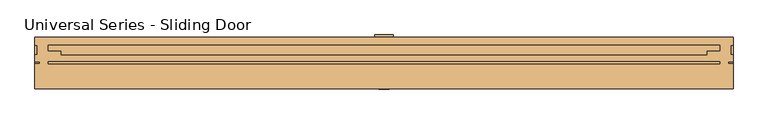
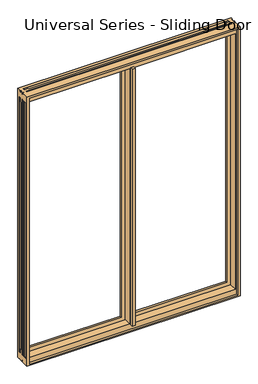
"""IFC4 building model written with IfcOpenShell, lengths in millimetres: door geometry, Universal Series - Sliding Door : Universal Sliding Door - Rainware White."""

from ifc_helpers import new_model, si_unit, frame, origin, place, context, project, spatial, polyline, circle_curve, ellipse_curve, source, transform, mapped, element, save
from ifc_brep_helpers import plane_surface, revolved_surface, advanced_brep


def universal_series_sliding_door_d04591d3(model_context):
    return source(origin(), model_context, "Body", "AdvancedBrep", [
        advanced_brep(
        [(-762.0, 18.25625, 0.0), (-762.0, 2.38125, 0.0), (-762.0, 2.38125, 9.836392), (-762.0, -2.38125, 9.836392), (-762.0, -2.38125, 0.0), (-762.0, -56.35625, 0.0), (-762.0, -56.35625, 2032.0), (-762.0, -2.38125, 2032.0), (-762.0, -2.38125, 2022.163608), (-762.0, 2.38125, 2022.163608), (-762.0, 2.38125, 2032.0), (-762.0, 18.25625, 2032.0), (-762.0, 18.25625, 2027.2375), (-762.0, 38.89375, 2027.2375), (-762.0, 38.89375, 2032.0), (-762.0, 56.35625, 2032.0), (-762.0, 56.35625, 0.0), (-762.0, 38.89375, 0.0), (-762.0, 38.89375, 4.7625), (-762.0, 18.25625, 4.7625), (-762.0, -38.89375, 52.3875), (-762.0, -18.25625, 52.3875), (-762.0, -18.25625, 1979.6125), (-762.0, -38.89375, 1979.6125), (-762.0, -2.38125, 52.3875), (-762.0, 2.38125, 52.3875), (-762.0, 2.38125, 1979.6125), (-762.0, -2.38125, 1979.6125), (-762.0, 26.19375, 80.9625), (-762.0, 26.19375, 52.3875), (-762.0, 38.89375, 52.3875), (-762.0, 38.89375, 1979.6125), (-762.0, 26.19375, 1979.6125), (-762.0, 26.19375, 1951.0375), (-762.0, 18.25625, 1951.0375), (-762.0, 18.25625, 80.9625), (-20.6375, 56.35625, 52.3875), (-20.6375, 56.35625, 0.0), (762.0, 56.35625, 2032.0), (762.0, 56.35625, 0.0), (20.6375, 56.35625, 0.0), (20.6375, 56.35625, 52.3875), (733.425, 56.35625, 52.3875), (733.425, 56.35625, 1979.6125), (20.6375, 56.35625, 1979.6125), (-20.6375, 56.35625, 1979.6125), (-733.425, 56.35625, 1979.6125), (-733.425, 56.35625, 52.3875), (-757.2375, 18.25625, 0.0), (-757.2375, 38.89375, 0.0), (-20.6375, 61.11875, 0.0), (20.6375, 61.11875, 0.0), (762.0, 38.89375, 0.0), (757.2375, 38.89375, 0.0), (757.2375, 18.25625, 0.0), (762.0, 18.25625, 0.0), (762.0, 2.38125, 0.0), (752.163608, 2.38125, 0.0), (752.163608, -2.38125, 0.0), (762.0, -2.38125, 0.0), (762.0, -56.35625, 0.0), (-752.163608, -2.38125, 0.0), (-752.163608, 2.38125, 0.0), (20.6375, 26.19375, 0.0), (49.2125, 26.19375, 0.0), (49.2125, 18.25625, 0.0), (704.85, 18.25625, 0.0), (704.85, 26.19375, 0.0), (733.425, 26.19375, 0.0), (733.425, 38.89375, 0.0), (20.6375, 38.89375, 0.0), (20.6375, 2.38125, 0.0), (20.6375, -2.38125, 0.0), (733.425, -2.38125, 0.0), (733.425, 2.38125, 0.0), (-20.6375, -2.38125, 0.0), (-20.6375, 2.38125, 0.0), (-733.425, 2.38125, 0.0), (-733.425, -2.38125, 0.0), (-49.2125, 26.19375, 0.0), (-20.6375, 26.19375, 0.0), (-20.6375, 38.89375, 0.0), (-733.425, 38.89375, 0.0), (-733.425, 26.19375, 0.0), (-704.85, 26.19375, 0.0), (-704.85, 18.25625, 0.0), (-49.2125, 18.25625, 0.0), (-760.809375, 38.89375, 52.3875), (-760.809375, 38.89375, 1979.6125), (-20.6375, 38.89375, 1.190625), (-733.425, 38.89375, 1.190625), (20.6375, 38.89375, 1.190625), (733.425, 38.89375, 1.190625), (760.809375, 38.89375, 1.190625), (757.2375, 38.89375, 1.190625), (762.0, 38.89375, 4.7625), (760.809375, 38.89375, 4.7625), (760.809375, 38.89375, 52.3875), (762.0, 38.89375, 52.3875), (762.0, 38.89375, 1979.6125), (760.809375, 38.89375, 1979.6125), (-757.2375, 38.89375, 1.190625), (-760.809375, 38.89375, 1.190625), (-760.809375, 38.89375, 4.7625), (733.425, 38.89375, 2030.809375), (733.425, 38.89375, 2032.0), (-733.425, 38.89375, 2032.0), (-733.425, 38.89375, 2030.809375), (760.809375, 38.89375, 2030.809375), (760.809375, 38.89375, 2027.2375), (762.0, 38.89375, 2027.2375), (762.0, 38.89375, 2032.0), (757.2375, 38.89375, 2032.0), (757.2375, 38.89375, 2030.809375), (-760.809375, 38.89375, 2030.809375), (-757.2375, 38.89375, 2030.809375), (-757.2375, 38.89375, 2032.0), (-760.809375, 38.89375, 2027.2375), (-759.221875, 42.06875, 4.7625), (-757.2375, 42.06875, 4.7625), (-757.2375, 15.08125, 4.7625), (-759.221875, 15.08125, 4.7625), (-760.809375, 18.25625, 4.7625), (-49.2125, 26.19375, 4.7625), (-49.2125, 15.08125, 4.7625), (-704.85, 15.08125, 4.7625), (-704.85, 26.19375, 4.7625), (-733.425, 26.19375, 4.7625), (-733.425, 42.06875, 4.7625), (-20.6375, 42.06875, 4.7625), (-20.6375, 26.19375, 4.7625), (49.2125, 15.08125, 4.7625), (49.2125, 26.19375, 4.7625), (20.6375, 26.19375, 4.7625), (20.6375, 42.06875, 4.7625), (733.425, 42.06875, 4.7625), (733.425, 26.19375, 4.7625), (704.85, 26.19375, 4.7625), (704.85, 15.08125, 4.7625), (762.0, 18.25625, 4.7625), (760.809375, 18.25625, 4.7625), (759.221875, 15.08125, 4.7625), (757.2375, 15.08125, 4.7625), (757.2375, 42.06875, 4.7625), (759.221875, 42.06875, 4.7625), (-760.809375, 18.25625, 1951.0375), (-760.809375, 18.25625, 80.9625), (-49.2125, 18.25625, 1.190625), (-704.85, 18.25625, 1.190625), (49.2125, 18.25625, 1.190625), (704.85, 18.25625, 1.190625), (757.2375, 18.25625, 1.190625), (760.809375, 18.25625, 1.190625), (762.0, 18.25625, 80.9625), (760.809375, 18.25625, 80.9625), (760.809375, 18.25625, 1951.0375), (762.0, 18.25625, 1951.0375), (-760.809375, 18.25625, 1.190625), (-757.2375, 18.25625, 1.190625), (760.809375, 18.25625, 2027.2375), (760.809375, 18.25625, 2030.809375), (757.2375, 18.25625, 2030.809375), (757.2375, 18.25625, 2032.0), (762.0, 18.25625, 2032.0), (762.0, 18.25625, 2027.2375), (704.85, 18.25625, 2032.0), (704.85, 18.25625, 2030.809375), (-704.85, 18.25625, 2030.809375), (-704.85, 18.25625, 2032.0), (-757.2375, 18.25625, 2030.809375), (-760.809375, 18.25625, 2030.809375), (-760.809375, 18.25625, 2027.2375), (-757.2375, 18.25625, 2032.0), (-760.4125, 2.38125, 52.3875), (-760.4125, 2.38125, 1979.6125), (-20.6375, 2.38125, 1.5875), (-733.425, 2.38125, 1.5875), (20.6375, 2.38125, 1.5875), (733.425, 2.38125, 1.5875), (760.4125, 2.38125, 1.5875), (752.163608, 2.38125, 1.5875), (762.0, 2.38125, 9.836392), (760.4125, 2.38125, 9.836392), (760.4125, 2.38125, 52.3875), (762.0, 2.38125, 52.3875), (762.0, 2.38125, 1979.6125), (760.4125, 2.38125, 1979.6125), (-752.163608, 2.38125, 1.5875), (-760.4125, 2.38125, 1.5875), (-760.4125, 2.38125, 9.836392), (733.425, 2.38125, 2030.4125), (733.425, 2.38125, 2032.0), (-733.425, 2.38125, 2032.0), (-733.425, 2.38125, 2030.4125), (760.4125, 2.38125, 2030.4125), (760.4125, 2.38125, 2022.163608), (762.0, 2.38125, 2022.163608), (762.0, 2.38125, 2032.0), (752.163608, 2.38125, 2032.0), (752.163608, 2.38125, 2030.4125), (-760.4125, 2.38125, 2030.4125), (-752.163608, 2.38125, 2030.4125), (-752.163608, 2.38125, 2032.0), (-760.4125, 2.38125, 2022.163608), (-756.288054, 4.7625, 5.711946), (-756.288054, -4.7625, 5.711946), (-760.4125, -2.38125, 9.836392), (756.288054, 4.7625, 5.711946), (-20.6375, -2.38125, 1.5875), (-733.425, -2.38125, 1.5875), (20.6375, -2.38125, 1.5875), (733.425, -2.38125, 1.5875), (762.0, -2.38125, 9.836392), (760.4125, -2.38125, 9.836392), (756.288054, -4.7625, 5.711946), (760.4125, -2.38125, 1.5875), (752.163608, -2.38125, 1.5875), (-752.163608, -2.38125, 1.5875), (-760.4125, -2.38125, 1.5875), (-760.4125, -2.38125, 1979.6125), (-760.4125, -2.38125, 52.3875), (762.0, -2.38125, 52.3875), (760.4125, -2.38125, 52.3875), (760.4125, -2.38125, 1979.6125), (762.0, -2.38125, 1979.6125), (733.425, -2.38125, 2032.0), (733.425, -2.38125, 2030.4125), (-733.425, -2.38125, 2030.4125), (-733.425, -2.38125, 2032.0), (760.4125, -2.38125, 2022.163608), (760.4125, -2.38125, 2030.4125), (752.163608, -2.38125, 2030.4125), (752.163608, -2.38125, 2032.0), (762.0, -2.38125, 2032.0), (762.0, -2.38125, 2022.163608), (-752.163608, -2.38125, 2030.4125), (-760.4125, -2.38125, 2030.4125), (-760.4125, -2.38125, 2022.163608), (-752.163608, -2.38125, 2032.0), (762.0, -56.35625, 2032.0), (742.95, -56.35625, 2020.8875), (742.95, -56.35625, 11.1125), (-742.95, -56.35625, 11.1125), (-742.95, -56.35625, 2020.8875), (-759.221875, 15.08125, 80.9625), (-757.2375, 15.08125, 80.9625), (-757.2375, 26.19375, 80.9625), (-49.2125, 13.49375, 80.9625), (-49.2125, 26.19375, 80.9625), (-704.85, 26.19375, 80.9625), (-704.85, 13.49375, 80.9625), (49.2125, 26.19375, 80.9625), (49.2125, 13.49375, 80.9625), (704.85, 13.49375, 80.9625), (704.85, 26.19375, 80.9625), (762.0, 26.19375, 80.9625), (757.2375, 26.19375, 80.9625), (757.2375, 15.08125, 80.9625), (759.221875, 15.08125, 80.9625), (-757.2375, 26.19375, 52.3875), (762.0, 26.19375, 52.3875), (757.2375, 26.19375, 52.3875), (733.425, 26.19375, 52.3875), (20.6375, 26.19375, 52.3875), (20.6375, 26.19375, 1979.6125), (733.425, 26.19375, 1979.6125), (704.85, 26.19375, 1951.0375), (49.2125, 26.19375, 1951.0375), (-20.6375, 26.19375, 1979.6125), (-20.6375, 26.19375, 52.3875), (-733.425, 26.19375, 52.3875), (-733.425, 26.19375, 1979.6125), (-49.2125, 26.19375, 1951.0375), (-704.85, 26.19375, 1951.0375), (-757.2375, 26.19375, 1979.6125), (-757.2375, 26.19375, 1951.0375), (762.0, 26.19375, 1979.6125), (762.0, 26.19375, 1951.0375), (757.2375, 26.19375, 1951.0375), (757.2375, 26.19375, 1979.6125), (704.85, 26.19375, 2032.0), (733.425, 26.19375, 2032.0), (733.425, 26.19375, 2027.2375), (704.85, 26.19375, 2027.2375), (-733.425, 26.19375, 2032.0), (-704.85, 26.19375, 2032.0), (-704.85, 26.19375, 2027.2375), (-733.425, 26.19375, 2027.2375), (-757.2375, 42.06875, 52.3875), (-759.221875, 42.06875, 52.3875), (759.221875, 42.06875, 52.3875), (757.2375, 42.06875, 52.3875), (-760.809375, -18.25625, 52.3875), (-760.809375, -18.25625, 1979.6125), (-760.809375, -38.89375, 1979.6125), (-760.809375, -38.89375, 52.3875), (-759.221875, -42.06875, 52.3875), (-757.2375, -42.06875, 52.3875), (-757.2375, -15.08125, 52.3875), (-759.221875, -15.08125, 52.3875), (-20.6375, -42.06875, 52.3875), (-20.6375, 13.49375, 52.3875), (-733.425, 13.49375, 52.3875), (-733.425, -42.06875, 52.3875), (20.6375, 13.49375, 52.3875), (20.6375, -42.06875, 52.3875), (733.425, -42.06875, 52.3875), (733.425, 13.49375, 52.3875), (762.0, -38.89375, 52.3875), (762.0, -18.25625, 52.3875), (760.809375, -18.25625, 52.3875), (759.221875, -15.08125, 52.3875), (757.2375, -15.08125, 52.3875), (757.2375, -42.06875, 52.3875), (759.221875, -42.06875, 52.3875), (760.809375, -38.89375, 52.3875), (762.0, -38.89375, 1979.6125), (762.0, -18.25625, 1979.6125), (760.809375, -38.89375, 1979.6125), (760.809375, -18.25625, 1979.6125), (-757.2375, 15.08125, 2.778125), (-757.2375, 42.06875, 2.778125), (-757.2375, 15.08125, 1951.0375), (-757.2375, 42.06875, 1979.6125), (-757.2375, 42.06875, 2029.221875), (-757.2375, 42.06875, 2027.2375), (-757.2375, 15.08125, 2027.2375), (-757.2375, 15.08125, 2029.221875), (-20.6375, 42.06875, 2.778125), (-20.6375, 61.11875, 1979.6125), (20.6375, 61.11875, 1979.6125), (20.6375, 42.06875, 2.778125), (757.2375, 42.06875, 2.778125), (757.2375, 15.08125, 2.778125), (757.2375, 42.06875, 1979.6125), (757.2375, 15.08125, 1951.0375), (757.2375, 15.08125, 2029.221875), (757.2375, 15.08125, 2027.2375), (757.2375, 42.06875, 2027.2375), (757.2375, 42.06875, 2029.221875), (756.288054, -4.7625, 2026.288054), (756.288054, 4.7625, 2026.288054), (-756.288054, -4.7625, 2026.288054), (-756.288054, 4.7625, 2026.288054), (49.2125, 15.08125, 2.778125), (49.2125, 13.49375, 1951.0375), (704.85, 15.08125, 2.778125), (704.85, 13.49375, 1951.0375), (704.85, 15.08125, 2027.2375), (704.85, 15.08125, 2029.221875), (733.425, 42.06875, 2.778125), (733.425, 42.06875, 2029.221875), (733.425, 42.06875, 2027.2375), (20.6375, -42.06875, 1979.6125), (20.6375, 13.49375, 1979.6125), (733.425, -42.06875, 1979.6125), (733.425, 13.49375, 1979.6125), (-733.425, -42.06875, 1979.6125), (-733.425, 13.49375, 1979.6125), (-20.6375, -42.06875, 1979.6125), (-20.6375, 13.49375, 1979.6125), (-733.425, 42.06875, 2.778125), (-733.425, 42.06875, 2027.2375), (-733.425, 42.06875, 2029.221875), (-704.85, 15.08125, 2.778125), (-704.85, 13.49375, 1951.0375), (-704.85, 15.08125, 2029.221875), (-704.85, 15.08125, 2027.2375), (-49.2125, 15.08125, 2.778125), (-49.2125, 13.49375, 1951.0375), (759.221875, 42.06875, 2.778125), (759.221875, 42.06875, 1979.6125), (759.221875, 42.06875, 2029.221875), (759.221875, 42.06875, 2027.2375), (-759.221875, 42.06875, 1979.6125), (-759.221875, 42.06875, 2.778125), (-759.221875, 42.06875, 2027.2375), (-759.221875, 42.06875, 2029.221875), (759.221875, 15.08125, 1951.0375), (759.221875, 15.08125, 2029.221875), (759.221875, 15.08125, 2027.2375), (759.221875, 15.08125, 2.778125), (-759.221875, 15.08125, 1951.0375), (-759.221875, 15.08125, 2.778125), (-759.221875, 15.08125, 2029.221875), (-759.221875, 15.08125, 2027.2375), (742.95, -42.06875, 11.1125), (742.95, -42.06875, 2020.8875), (-742.95, -42.06875, 2020.8875), (-742.95, -42.06875, 11.1125), (-11.1125, -42.06875, 1983.85408), (11.1125, -42.06875, 1983.85408), (11.1125, -42.06875, 42.8625), (-11.1125, -42.06875, 42.8625), (759.221875, -15.08125, 1979.6125), (757.2375, -15.08125, 1979.6125), (757.2375, -42.06875, 1979.6125), (759.221875, -42.06875, 1979.6125), (-759.221875, -42.06875, 1979.6125), (-757.2375, -42.06875, 1979.6125), (-757.2375, -15.08125, 1979.6125), (-759.221875, -15.08125, 1979.6125), (11.1125, -57.94375, 1983.85408), (11.1125, -57.94375, 42.8625), (-11.1125, -57.94375, 42.8625), (-11.1125, -57.94375, 1983.85408)],
        [
            (0, 1),
            (1, 2),
            (2, 3, circle_curve(frame((-762.0, 0.0, 5.711946), z_axis=(1.0, 0.0, 0.0), x_axis=(0.0, -1.0, 0.0)), 4.7625)),
            (3, 4),
            (4, 5),
            (5, 6),
            (6, 7),
            (7, 8),
            (8, 9, circle_curve(frame((-762.0, 0.0, 2026.288054), z_axis=(1.0, 0.0, 0.0), x_axis=(0.0, 0.0, 1.0)), 4.7625)),
            (9, 10),
            (10, 11),
            (11, 12),
            (12, 13),
            (13, 14),
            (14, 15),
            (15, 16),
            (16, 17),
            (17, 18),
            (18, 19),
            (19, 0),
            (20, 21),
            (21, 22),
            (22, 23),
            (23, 20),
            (24, 25),
            (25, 26),
            (26, 27),
            (27, 24),
            (28, 29),
            (29, 30),
            (30, 31),
            (31, 32),
            (32, 33),
            (33, 34),
            (34, 35),
            (35, 28),
            (36, 37),
            (37, 16),
            (15, 38),
            (38, 39),
            (39, 40),
            (40, 41),
            (41, 42),
            (42, 43),
            (43, 44),
            (44, 45),
            (45, 46),
            (46, 47),
            (47, 36),
            (0, 48),
            (48, 49),
            (49, 17),
            (37, 50),
            (50, 51),
            (51, 40),
            (39, 52),
            (52, 53),
            (53, 54),
            (54, 55),
            (55, 56),
            (56, 57),
            (57, 58, circle_curve(frame((756.288054, 0.0, 0.0), z_axis=(0.0, 0.0, 1.0), x_axis=(-1.0, 0.0, 0.0)), 4.7625)),
            (58, 59),
            (59, 60),
            (60, 5),
            (4, 61),
            (61, 62, circle_curve(frame((-756.288054, 0.0, 0.0), z_axis=(0.0, 0.0, 1.0), x_axis=(-1.0, 0.0, 0.0)), 4.7625)),
            (62, 1),
            (63, 64),
            (64, 65),
            (65, 66),
            (66, 67),
            (67, 68),
            (68, 69),
            (69, 70),
            (70, 63),
            (71, 72),
            (72, 73),
            (73, 74),
            (74, 71),
            (75, 76),
            (76, 77),
            (77, 78),
            (78, 75),
            (79, 80),
            (80, 81),
            (81, 82),
            (82, 83),
            (83, 84),
            (84, 85),
            (85, 86),
            (86, 79),
            (30, 87),
            (87, 88),
            (88, 31),
            (81, 89),
            (89, 90),
            (90, 82),
            (91, 70),
            (69, 92),
            (92, 91),
            (93, 94),
            (94, 53),
            (52, 95),
            (95, 96),
            (96, 93),
            (97, 98),
            (98, 99),
            (99, 100),
            (100, 97),
            (101, 102),
            (102, 103),
            (103, 18),
            (49, 101),
            (104, 105),
            (105, 106),
            (106, 107),
            (107, 104),
            (108, 109),
            (109, 110),
            (110, 111),
            (111, 112),
            (112, 113),
            (113, 108),
            (114, 115),
            (115, 116),
            (116, 14),
            (13, 117),
            (117, 114),
            (103, 118),
            (118, 119),
            (119, 120),
            (120, 121),
            (121, 122),
            (122, 19),
            (123, 124),
            (124, 125),
            (125, 126),
            (126, 127),
            (127, 128),
            (128, 129),
            (129, 130),
            (130, 123),
            (131, 132),
            (132, 133),
            (133, 134),
            (134, 135),
            (135, 136),
            (136, 137),
            (137, 138),
            (138, 131),
            (95, 139),
            (139, 140),
            (140, 141),
            (141, 142),
            (142, 143),
            (143, 144),
            (144, 96),
            (34, 145),
            (145, 146),
            (146, 35),
            (147, 86),
            (85, 148),
            (148, 147),
            (65, 149),
            (149, 150),
            (150, 66),
            (151, 152),
            (152, 140),
            (139, 55),
            (54, 151),
            (153, 154),
            (154, 155),
            (155, 156),
            (156, 153),
            (157, 158),
            (158, 48),
            (122, 157),
            (159, 160),
            (160, 161),
            (161, 162),
            (162, 163),
            (163, 164),
            (164, 159),
            (165, 166),
            (166, 167),
            (167, 168),
            (168, 165),
            (169, 170),
            (170, 171),
            (171, 12),
            (11, 172),
            (172, 169),
            (25, 173),
            (173, 174),
            (174, 26),
            (76, 175),
            (175, 176),
            (176, 77),
            (177, 71),
            (74, 178),
            (178, 177),
            (179, 180),
            (180, 57),
            (56, 181),
            (181, 182),
            (182, 179),
            (183, 184),
            (184, 185),
            (185, 186),
            (186, 183),
            (187, 188),
            (188, 189),
            (189, 2),
            (62, 187),
            (190, 191),
            (191, 192),
            (192, 193),
            (193, 190),
            (194, 195),
            (195, 196),
            (196, 197),
            (197, 198),
            (198, 199),
            (199, 194),
            (200, 201),
            (201, 202),
            (202, 10),
            (9, 203),
            (203, 200),
            (189, 204, ellipse_curve(frame((-756.288054, 0.0, 5.711946), z_axis=(-0.7071067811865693, 0.0, -0.7071067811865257), x_axis=(0.7071067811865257, 0.0, -0.7071067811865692)), 6.7351921, 4.7625)),
            (204, 205, ellipse_curve(frame((-756.288054, 0.0, 5.711946), z_axis=(0.7071067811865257, 0.0, -0.7071067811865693), x_axis=(0.7071067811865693, 0.0, 0.7071067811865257)), 6.7351921, 4.7625)),
            (205, 206, ellipse_curve(frame((-756.288054, 0.0, 5.711946), z_axis=(-0.7071067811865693, 0.0, -0.7071067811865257), x_axis=(0.7071067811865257, 0.0, -0.7071067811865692)), 6.7351921, 4.7625)),
            (206, 3),
            (179, 207, ellipse_curve(frame((756.288054, 0.0, 5.711946), z_axis=(0.7071067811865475, 0.0, 0.7071067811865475), x_axis=(0.7071067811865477, 0.0, -0.7071067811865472)), 6.7351921, 4.7625)),
            (207, 180, ellipse_curve(frame((756.288054, 0.0, 5.711946), z_axis=(-0.7071067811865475, 0.0, 0.7071067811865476), x_axis=(0.7071067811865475, 0.0, 0.7071067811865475)), 6.7351921, 4.7625)),
            (187, 204, ellipse_curve(frame((-756.288054, 0.0, 5.711946), z_axis=(0.7071067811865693, 0.0, 0.7071067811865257), x_axis=(0.7071067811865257, 0.0, -0.7071067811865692)), 6.7351921, 4.7625)),
            (204, 188, ellipse_curve(frame((-756.288054, 0.0, 5.711946), z_axis=(-0.7071067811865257, 0.0, 0.7071067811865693), x_axis=(0.7071067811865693, 0.0, 0.7071067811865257)), 6.7351921, 4.7625)),
            (175, 208, circle_curve(frame((-20.6375, 0.0, 5.711946), z_axis=(1.0, 0.0, 0.0), x_axis=(0.0, -1.0, 0.0)), 4.7625)),
            (208, 209),
            (209, 176, circle_curve(frame((-733.425, 0.0, 5.711946), z_axis=(-1.0, 0.0, 0.0), x_axis=(0.0, -1.0, 0.0)), 4.7625)),
            (210, 177, circle_curve(frame((20.6375, 0.0, 5.711946), z_axis=(-1.0, 0.0, 0.0), x_axis=(0.0, -1.0, 0.0)), 4.7625)),
            (178, 211, circle_curve(frame((733.425, 0.0, 5.711946), z_axis=(1.0, 0.0, 0.0), x_axis=(0.0, -1.0, 0.0)), 4.7625)),
            (211, 210),
            (181, 212, circle_curve(frame((762.0, 0.0, 5.711946), z_axis=(1.0, 0.0, 0.0), x_axis=(0.0, -1.0, 0.0)), 4.7625)),
            (212, 213),
            (213, 214, ellipse_curve(frame((756.288054, 0.0, 5.711946), z_axis=(0.7071067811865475, 0.0, -0.7071067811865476), x_axis=(0.7071067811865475, 0.0, 0.7071067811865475)), 6.7351921, 4.7625)),
            (214, 207, ellipse_curve(frame((756.288054, 0.0, 5.711946), z_axis=(-0.7071067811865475, 0.0, -0.7071067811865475), x_axis=(0.7071067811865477, 0.0, -0.7071067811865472)), 6.7351921, 4.7625)),
            (207, 182, ellipse_curve(frame((756.288054, 0.0, 5.711946), z_axis=(0.7071067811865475, 0.0, -0.7071067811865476), x_axis=(0.7071067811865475, 0.0, 0.7071067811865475)), 6.7351921, 4.7625)),
            (215, 216),
            (216, 214, ellipse_curve(frame((756.288054, 0.0, 5.711946), z_axis=(-0.7071067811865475, 0.0, 0.7071067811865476), x_axis=(0.7071067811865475, 0.0, 0.7071067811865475)), 6.7351921, 4.7625)),
            (214, 215, ellipse_curve(frame((756.288054, 0.0, 5.711946), z_axis=(0.7071067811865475, 0.0, 0.7071067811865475), x_axis=(0.7071067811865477, 0.0, -0.7071067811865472)), 6.7351921, 4.7625)),
            (217, 218),
            (218, 205, ellipse_curve(frame((-756.288054, 0.0, 5.711946), z_axis=(-0.7071067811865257, 0.0, 0.7071067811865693), x_axis=(0.7071067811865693, 0.0, 0.7071067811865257)), 6.7351921, 4.7625)),
            (205, 217, ellipse_curve(frame((-756.288054, 0.0, 5.711946), z_axis=(0.7071067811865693, 0.0, 0.7071067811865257), x_axis=(0.7071067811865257, 0.0, -0.7071067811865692)), 6.7351921, 4.7625)),
            (27, 219),
            (219, 220),
            (220, 24),
            (215, 213),
            (212, 59),
            (58, 216),
            (217, 61),
            (206, 218),
            (208, 75),
            (78, 209),
            (72, 210),
            (211, 73),
            (221, 222),
            (222, 223),
            (223, 224),
            (224, 221),
            (225, 226),
            (226, 227),
            (227, 228),
            (228, 225),
            (229, 230),
            (230, 231),
            (231, 232),
            (232, 233),
            (233, 234),
            (234, 229),
            (235, 236),
            (236, 237),
            (237, 8),
            (7, 238),
            (238, 235),
            (60, 239),
            (239, 6),
            (240, 241),
            (241, 242),
            (242, 243),
            (243, 240),
            (146, 244),
            (244, 245),
            (245, 246),
            (246, 28),
            (247, 248),
            (248, 249),
            (249, 250),
            (250, 247),
            (251, 252),
            (252, 253),
            (253, 254),
            (254, 251),
            (153, 255),
            (255, 256),
            (256, 257),
            (257, 258),
            (258, 154),
            (246, 259),
            (259, 29),
            (63, 133),
            (132, 64),
            (67, 137),
            (136, 68),
            (83, 127),
            (126, 84),
            (79, 123),
            (130, 80),
            (255, 260),
            (260, 261),
            (261, 256),
            (262, 263),
            (263, 264),
            (264, 265),
            (265, 262),
            (254, 266),
            (266, 267),
            (267, 251),
            (268, 269),
            (269, 270),
            (270, 271),
            (271, 268),
            (248, 272),
            (272, 273),
            (273, 249),
            (32, 274),
            (274, 275),
            (275, 33),
            (276, 277),
            (277, 278),
            (278, 279),
            (279, 276),
            (280, 281),
            (281, 282),
            (282, 283),
            (283, 280),
            (284, 285),
            (285, 286),
            (286, 287),
            (287, 284),
            (259, 288),
            (288, 289),
            (289, 87),
            (41, 263),
            (262, 42),
            (260, 98),
            (97, 290),
            (290, 291),
            (291, 261),
            (269, 36),
            (47, 270),
            (21, 292),
            (292, 293),
            (293, 22),
            (23, 294),
            (294, 295),
            (295, 20),
            (295, 296),
            (296, 297),
            (297, 298),
            (298, 299),
            (299, 292),
            (220, 173, circle_curve(frame((-756.288054, 0.0, 52.3875), z_axis=(0.0, 0.0, 1.0), x_axis=(-1.0, 0.0, 0.0)), 4.7625)),
            (300, 301),
            (301, 302),
            (302, 303),
            (303, 300),
            (304, 305),
            (305, 306),
            (306, 307),
            (307, 304),
            (308, 309),
            (309, 310),
            (310, 311),
            (311, 312),
            (312, 313),
            (313, 314),
            (314, 315),
            (315, 308),
            (221, 184),
            (183, 222, circle_curve(frame((756.288054, 0.0, 52.3875), z_axis=(0.0, 0.0, 1.0), x_axis=(-1.0, 0.0, 0.0)), 4.7625)),
            (38, 111),
            (110, 164),
            (163, 197),
            (196, 234, circle_curve(frame((762.0, 0.0, 2026.288054), z_axis=(-1.0, 0.0, 0.0), x_axis=(0.0, 0.0, 1.0)), 4.7625)),
            (233, 239),
            (156, 277),
            (276, 99),
            (308, 316),
            (316, 317),
            (317, 309),
            (224, 185),
            (315, 318),
            (318, 316),
            (317, 319),
            (319, 310),
            (158, 320),
            (320, 120),
            (119, 321),
            (321, 101),
            (245, 322),
            (322, 275),
            (274, 323),
            (323, 288),
            (172, 116),
            (115, 324),
            (324, 325),
            (325, 326),
            (326, 327),
            (327, 169),
            (129, 328),
            (328, 89),
            (329, 50),
            (268, 45),
            (45, 329),
            (329, 330),
            (330, 51),
            (91, 331),
            (331, 134),
            (330, 44),
            (44, 264),
            (94, 332),
            (332, 143),
            (142, 333),
            (333, 151),
            (291, 334),
            (334, 279),
            (278, 335),
            (335, 257),
            (112, 162),
            (161, 336),
            (336, 337),
            (337, 338),
            (338, 339),
            (339, 113),
            (186, 223, circle_curve(frame((756.288054, 0.0, 1979.6125), z_axis=(0.0, 0.0, 1.0), x_axis=(-1.0, 0.0, 0.0)), 4.7625)),
            (229, 340, ellipse_curve(frame((756.288054, 0.0, 2026.288054), z_axis=(-0.7071067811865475, 0.0, -0.7071067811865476), x_axis=(-0.7071067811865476, 0.0, 0.7071067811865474)), 6.7351921, 4.7625)),
            (340, 230, ellipse_curve(frame((756.288054, 0.0, 2026.288054), z_axis=(-0.7071067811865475, 0.0, 0.7071067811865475), x_axis=(0.7071067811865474, 0.0, 0.7071067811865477)), 6.7351921, 4.7625)),
            (194, 341, ellipse_curve(frame((756.288054, 0.0, 2026.288054), z_axis=(-0.7071067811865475, 0.0, 0.7071067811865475), x_axis=(0.7071067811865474, 0.0, 0.7071067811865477)), 6.7351921, 4.7625)),
            (341, 195, ellipse_curve(frame((756.288054, 0.0, 2026.288054), z_axis=(-0.7071067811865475, 0.0, -0.7071067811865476), x_axis=(-0.7071067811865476, 0.0, 0.7071067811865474)), 6.7351921, 4.7625)),
            (198, 232, circle_curve(frame((756.288054, 0.0, 2032.0), z_axis=(0.0, 0.0, 1.0), x_axis=(-1.0, 0.0, 0.0)), 4.7625)),
            (231, 340, ellipse_curve(frame((756.288054, 0.0, 2026.288054), z_axis=(0.7071067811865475, 0.0, 0.7071067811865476), x_axis=(-0.7071067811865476, 0.0, 0.7071067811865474)), 6.7351921, 4.7625)),
            (340, 341, ellipse_curve(frame((756.288054, 0.0, 2026.288054), z_axis=(0.7071067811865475, 0.0, -0.7071067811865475), x_axis=(0.7071067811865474, 0.0, 0.7071067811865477)), 6.7351921, 4.7625)),
            (341, 199, ellipse_curve(frame((756.288054, 0.0, 2026.288054), z_axis=(0.7071067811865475, 0.0, 0.7071067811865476), x_axis=(-0.7071067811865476, 0.0, 0.7071067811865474)), 6.7351921, 4.7625)),
            (219, 174, circle_curve(frame((-756.288054, 0.0, 1979.6125), z_axis=(0.0, 0.0, 1.0), x_axis=(-1.0, 0.0, 0.0)), 4.7625)),
            (236, 342, ellipse_curve(frame((-756.288054, 0.0, 2026.288054), z_axis=(0.7071067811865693, 0.0, 0.7071067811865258), x_axis=(-0.7071067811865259, 0.0, 0.7071067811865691)), 6.7351921, 4.7625)),
            (342, 237, ellipse_curve(frame((-756.288054, 0.0, 2026.288054), z_axis=(0.7071067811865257, 0.0, -0.7071067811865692), x_axis=(0.7071067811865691, 0.0, 0.7071067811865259)), 6.7351921, 4.7625)),
            (203, 343, ellipse_curve(frame((-756.288054, 0.0, 2026.288054), z_axis=(0.7071067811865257, 0.0, -0.7071067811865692), x_axis=(0.7071067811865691, 0.0, 0.7071067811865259)), 6.7351921, 4.7625)),
            (343, 200, ellipse_curve(frame((-756.288054, 0.0, 2026.288054), z_axis=(0.7071067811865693, 0.0, 0.7071067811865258), x_axis=(-0.7071067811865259, 0.0, 0.7071067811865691)), 6.7351921, 4.7625)),
            (238, 202, circle_curve(frame((-756.288054, 0.0, 2032.0), z_axis=(0.0, 0.0, 1.0), x_axis=(-1.0, 0.0, 0.0)), 4.7625)),
            (201, 343, ellipse_curve(frame((-756.288054, 0.0, 2026.288054), z_axis=(-0.7071067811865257, 0.0, 0.7071067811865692), x_axis=(0.7071067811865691, 0.0, 0.7071067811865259)), 6.7351921, 4.7625)),
            (343, 342, ellipse_curve(frame((-756.288054, 0.0, 2026.288054), z_axis=(-0.7071067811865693, 0.0, -0.7071067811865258), x_axis=(-0.7071067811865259, 0.0, 0.7071067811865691)), 6.7351921, 4.7625)),
            (342, 235, ellipse_curve(frame((-756.288054, 0.0, 2026.288054), z_axis=(-0.7071067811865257, 0.0, 0.7071067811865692), x_axis=(0.7071067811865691, 0.0, 0.7071067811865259)), 6.7351921, 4.7625)),
            (131, 344),
            (344, 149),
            (267, 345),
            (345, 252),
            (150, 346),
            (346, 138),
            (253, 347),
            (347, 266),
            (283, 348),
            (348, 349),
            (349, 166),
            (165, 280),
            (135, 350),
            (350, 92),
            (265, 43),
            (281, 105),
            (104, 351),
            (351, 352),
            (352, 282),
            (353, 305),
            (304, 354),
            (354, 353),
            (306, 355),
            (355, 356),
            (356, 307),
            (225, 191),
            (190, 226, circle_curve(frame((733.425, 0.0, 2026.288054), z_axis=(-1.0, 0.0, 0.0), x_axis=(0.0, 0.0, 1.0)), 4.7625)),
            (357, 303),
            (302, 358),
            (358, 357),
            (192, 228),
            (227, 193, circle_curve(frame((-733.425, 0.0, 2026.288054), z_axis=(1.0, 0.0, 0.0), x_axis=(0.0, 0.0, 1.0)), 4.7625)),
            (300, 359),
            (359, 360),
            (360, 301),
            (46, 271),
            (90, 361),
            (361, 128),
            (106, 284),
            (287, 362),
            (362, 363),
            (363, 107),
            (125, 364),
            (364, 148),
            (365, 250),
            (273, 365),
            (285, 168),
            (167, 366),
            (366, 367),
            (367, 286),
            (147, 368),
            (368, 124),
            (247, 369),
            (369, 272),
            (144, 370),
            (370, 93),
            (100, 371),
            (371, 290),
            (372, 373),
            (373, 109),
            (108, 372),
            (371, 334),
            (338, 373),
            (372, 339),
            (323, 374),
            (374, 289),
            (102, 375),
            (375, 118),
            (374, 88),
            (117, 376),
            (376, 377),
            (377, 114),
            (356, 354),
            (345, 347),
            (360, 358),
            (365, 369),
            (335, 378),
            (378, 258),
            (379, 380),
            (380, 337),
            (336, 379),
            (152, 381),
            (381, 141),
            (378, 155),
            (159, 380),
            (379, 160),
            (145, 382),
            (382, 244),
            (121, 383),
            (383, 157),
            (170, 384),
            (384, 385),
            (385, 171),
            (382, 322),
            (386, 387),
            (387, 388),
            (388, 389),
            (389, 386),
            (353, 355),
            (357, 359),
            (390, 391),
            (391, 392),
            (392, 393),
            (393, 390),
            (319, 394),
            (394, 311),
            (394, 395),
            (395, 312),
            (395, 396),
            (396, 313),
            (396, 397),
            (397, 314),
            (397, 318),
            (398, 296),
            (294, 398),
            (398, 399),
            (399, 297),
            (399, 400),
            (400, 298),
            (400, 401),
            (401, 299),
            (401, 293),
            (386, 241),
            (240, 387),
            (242, 389),
            (388, 243),
            (333, 381),
            (383, 320),
            (344, 346),
            (364, 368),
            (332, 370),
            (375, 321),
            (361, 328),
            (331, 350),
            (327, 384),
            (349, 366),
            (348, 367),
            (326, 385),
            (325, 376),
            (352, 362),
            (351, 363),
            (324, 377),
            (391, 402),
            (402, 403),
            (403, 392),
            (404, 393),
            (403, 404),
            (405, 390),
            (404, 405),
            (402, 405),
        ],
        [
            plane_surface(frame((-762.0, 56.35625, 0.0), z_axis=(-1.0, 0.0, 0.0), x_axis=(0.0, -1.0, 0.0))),
            plane_surface(frame((-762.0, 56.35625, 52.3875), z_axis=(0.0, 1.0, 0.0), x_axis=(1.0, 0.0, 0.0))),
            plane_surface(frame((-762.0, 56.35625, 0.0), z_axis=(0.0, 0.0, -1.0), x_axis=(1.0, 0.0, 0.0))),
            plane_surface(frame((-762.0, 38.89375, 0.0), z_axis=(0.0, -1.0, 0.0), x_axis=(1.0, 0.0, 0.0))),
            plane_surface(frame((-762.0, 42.06875, 4.7625), z_axis=(0.0, 0.0, -1.0), x_axis=(1.0, 0.0, 0.0))),
            plane_surface(frame((-762.0, 18.25625, 1.190625), z_axis=(0.0, 1.0, 0.0), x_axis=(1.0, 0.0, 0.0))),
            plane_surface(frame((-762.0, 2.38125, 0.0), z_axis=(0.0, -1.0, 0.0), x_axis=(1.0, 0.0, 0.0))),
            revolved_surface(polyline([(-751.5255539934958, -4.7625, 5.711946), (-762.0, -4.7625, 5.711946)]), (-762.0, 0.0, 5.711946), (1.0, 0.0, 0.0)),
            revolved_surface(polyline([(761.0505540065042, -4.7625, 5.711946), (751.525553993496, -4.7625, 5.711946)]), (-762.0, 0.0, 5.711946), (1.0, 0.0, 0.0)),
            revolved_surface(polyline([(-751.5255539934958, -4.7625, 5.711946), (-761.0505540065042, -4.7625, 5.711946)]), (-762.0, 0.0, 5.711946), (1.0, 0.0, 0.0)),
            revolved_surface(polyline([(-20.637500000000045, -4.7625, 5.711946), (-733.425, -4.7625, 5.711946)]), (-762.0, 0.0, 5.711946), (1.0, 0.0, 0.0)),
            revolved_surface(polyline([(733.425, -4.7625, 5.711946), (20.637500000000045, -4.7625, 5.711946)]), (-762.0, 0.0, 5.711946), (1.0, 0.0, 0.0)),
            revolved_surface(polyline([(762.0, -4.7625, 5.711946), (751.525553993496, -4.7625, 5.711946)]), (-762.0, 0.0, 5.711946), (1.0, 0.0, 0.0)),
            plane_surface(frame((-762.0, -2.38125, 1.5875), z_axis=(0.0, 1.0, 0.0), x_axis=(1.0, 0.0, 0.0))),
            plane_surface(frame((-762.0, -56.35625, 0.0), z_axis=(0.0, -1.0, 0.0), x_axis=(1.0, 0.0, 0.0))),
            plane_surface(frame((-762.0, 13.49375, 80.9625), z_axis=(0.0, 0.0, 1.0), x_axis=(1.0, 0.0, 0.0))),
            plane_surface(frame((-762.0, 26.19375, 80.9625), z_axis=(0.0, 1.0, 0.0), x_axis=(1.0, 0.0, 0.0))),
            plane_surface(frame((-762.0, 26.19375, 52.3875), z_axis=(0.0, 0.0, 1.0), x_axis=(1.0, 0.0, 0.0))),
            plane_surface(frame((-760.809375, -18.25625, 0.0), z_axis=(0.0, -1.0, 0.0), x_axis=(0.0, 0.0, 1.0))),
            plane_surface(frame((-762.0, -38.89375, 0.0), z_axis=(0.0, 1.0, 0.0), x_axis=(0.0, 0.0, 1.0))),
            plane_surface(frame((-762.0, -42.06875, 52.3875), z_axis=(0.0, 0.0, 1.0), x_axis=(1.0, 0.0, 0.0))),
            plane_surface(frame((762.0, 56.35625, 0.0), z_axis=(1.0, 0.0, 0.0), x_axis=(0.0, -1.0, 0.0))),
            plane_surface(frame((760.809375, -38.89375, 0.0), z_axis=(0.0, 1.0, 0.0), x_axis=(0.0, 0.0, 1.0))),
            plane_surface(frame((762.0, -18.25625, 0.0), z_axis=(0.0, -1.0, 0.0), x_axis=(0.0, 0.0, 1.0))),
            plane_surface(frame((-757.2375, 15.08125, 0.0), z_axis=(-1.0, 0.0, 0.0), x_axis=(0.0, 0.0, 1.0))),
            plane_surface(frame((-20.6375, 61.11875, 1979.6125), z_axis=(-1.0, 0.0, 0.0), x_axis=(0.0, 0.0, -1.0))),
            plane_surface(frame((0.0, 61.11875, 1979.6125), z_axis=(0.0, 1.0, 0.0), x_axis=(0.0, 0.0, -1.0))),
            plane_surface(frame((20.6375, 26.19375, 1979.6125), z_axis=(1.0, 0.0, 0.0), x_axis=(0.0, 0.0, -1.0))),
            plane_surface(frame((757.2375, 42.06875, 0.0), z_axis=(1.0, 0.0, 0.0), x_axis=(0.0, 0.0, 1.0))),
            revolved_surface(polyline([(751.5255539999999, 0.0, 10.474446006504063), (751.5255539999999, 0.0, 0.0)]), (756.288054, 0.0, 0.0), (0.0, 0.0, 1.0)),
            revolved_surface(polyline([(751.5255539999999, 0.0, 10.474446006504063), (751.5255539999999, 0.0, 0.949445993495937)]), (756.288054, 0.0, 0.0), (0.0, 0.0, 1.0)),
            revolved_surface(polyline([(751.5255539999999, 0.0, 1979.6125), (751.5255539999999, 0.0, 52.3875)]), (756.288054, 0.0, 0.0), (0.0, 0.0, 1.0)),
            revolved_surface(polyline([(751.5255539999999, 0.0, 2031.0505540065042), (751.5255539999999, 0.0, 2021.525553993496)]), (756.288054, 0.0, 0.0), (0.0, 0.0, 1.0)),
            revolved_surface(polyline([(751.5255539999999, 0.0, 2032.0), (751.5255539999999, 0.0, 2021.525553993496)]), (756.288054, 0.0, 0.0), (0.0, 0.0, 1.0)),
            revolved_surface(polyline([(-761.050554, 0.0, 10.474446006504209), (-761.050554, 0.0, 0.0)]), (-756.288054, 0.0, 0.0), (0.0, 0.0, 1.0)),
            revolved_surface(polyline([(-761.050554, 0.0, 10.474446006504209), (-761.050554, 0.0, 0.9494459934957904)]), (-756.288054, 0.0, 0.0), (0.0, 0.0, 1.0)),
            revolved_surface(polyline([(-761.050554, 0.0, 1979.6125), (-761.050554, 0.0, 52.3875)]), (-756.288054, 0.0, 0.0), (0.0, 0.0, 1.0)),
            revolved_surface(polyline([(-761.050554, 0.0, 2031.0505540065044), (-761.050554, 0.0, 2021.5255539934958)]), (-756.288054, 0.0, 0.0), (0.0, 0.0, 1.0)),
            revolved_surface(polyline([(-761.050554, 0.0, 2032.0), (-761.050554, 0.0, 2021.5255539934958)]), (-756.288054, 0.0, 0.0), (0.0, 0.0, 1.0)),
            plane_surface(frame((49.2125, 13.49375, 1979.6125), z_axis=(1.0, 0.0, 0.0), x_axis=(0.0, 0.0, -1.0))),
            plane_surface(frame((704.85, 13.49375, 0.0), z_axis=(-1.0, 0.0, 0.0), x_axis=(0.0, 0.0, 1.0))),
            plane_surface(frame((733.425, 26.19375, 0.0), z_axis=(-1.0, 0.0, 0.0), x_axis=(0.0, 0.0, 1.0))),
            plane_surface(frame((20.6375, -42.06875, 1979.6125), z_axis=(1.0, 0.0, 0.0), x_axis=(0.0, 0.0, -1.0))),
            plane_surface(frame((733.425, -42.06875, 0.0), z_axis=(-1.0, 0.0, 0.0), x_axis=(0.0, 0.0, 1.0))),
            plane_surface(frame((-733.425, 13.49375, 0.0), z_axis=(1.0, 0.0, 0.0), x_axis=(0.0, 0.0, 1.0))),
            plane_surface(frame((-20.6375, 13.49375, 1979.6125), z_axis=(-1.0, 0.0, 0.0), x_axis=(0.0, 0.0, -1.0))),
            plane_surface(frame((-733.425, 56.35625, 0.0), z_axis=(1.0, 0.0, 0.0), x_axis=(0.0, 0.0, 1.0))),
            plane_surface(frame((-704.85, 26.19375, 0.0), z_axis=(1.0, 0.0, 0.0), x_axis=(0.0, 0.0, 1.0))),
            plane_surface(frame((-49.2125, 26.19375, 1979.6125), z_axis=(-1.0, 0.0, 0.0), x_axis=(0.0, 0.0, -1.0))),
            plane_surface(frame((760.809375, 38.89375, 0.0), z_axis=(-0.8944271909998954, -0.447213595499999, 0.0), x_axis=(0.0, 0.0, 1.0))),
            plane_surface(frame((759.221875, 42.06875, 0.0), z_axis=(0.0, -1.0, 0.0), x_axis=(0.0, 0.0, 1.0))),
            plane_surface(frame((-757.2375, 42.06875, 0.0), z_axis=(0.0, -1.0, 0.0), x_axis=(0.0, 0.0, 1.0))),
            plane_surface(frame((-759.221875, 42.06875, 0.0), z_axis=(0.8944271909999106, -0.4472135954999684, 0.0), x_axis=(0.0, 0.0, 1.0))),
            plane_surface(frame((-762.0, 13.49375, 52.3875), z_axis=(0.0, -1.0, 0.0), x_axis=(1.0, 0.0, 0.0))),
            plane_surface(frame((757.2375, 15.08125, 0.0), z_axis=(0.0, 1.0, 0.0), x_axis=(0.0, 0.0, 1.0))),
            plane_surface(frame((759.221875, 15.08125, 0.0), z_axis=(-0.8944271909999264, 0.447213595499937, 0.0), x_axis=(0.0, 0.0, 1.0))),
            plane_surface(frame((-760.809375, 18.25625, 0.0), z_axis=(0.8944271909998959, 0.447213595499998, 0.0), x_axis=(0.0, 0.0, 1.0))),
            plane_surface(frame((-759.221875, 15.08125, 0.0), z_axis=(0.0, 1.0, 0.0), x_axis=(0.0, 0.0, 1.0))),
            plane_surface(frame((-762.0, -42.06875, 11.1125), z_axis=(0.0, -1.0, 0.0), x_axis=(1.0, 0.0, 0.0))),
            plane_surface(frame((760.809375, -18.25625, 0.0), z_axis=(-0.894427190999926, -0.44721359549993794, 0.0), x_axis=(0.0, 0.0, 1.0))),
            plane_surface(frame((759.221875, -15.08125, 0.0), z_axis=(0.0, -1.0, 0.0), x_axis=(0.0, 0.0, 1.0))),
            plane_surface(frame((757.2375, -15.08125, 0.0), z_axis=(1.0, 0.0, 0.0), x_axis=(0.0, 0.0, 1.0))),
            plane_surface(frame((757.2375, -42.06875, 0.0), z_axis=(0.0, 1.0, 0.0), x_axis=(0.0, 0.0, 1.0))),
            plane_surface(frame((759.221875, -42.06875, 0.0), z_axis=(-0.8944271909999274, 0.4472135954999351, 0.0), x_axis=(0.0, 0.0, 1.0))),
            plane_surface(frame((-760.809375, -38.89375, 0.0), z_axis=(0.8944271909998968, 0.44721359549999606, 0.0), x_axis=(0.0, 0.0, 1.0))),
            plane_surface(frame((-759.221875, -42.06875, 0.0), z_axis=(0.0, 1.0, 0.0), x_axis=(0.0, 0.0, 1.0))),
            plane_surface(frame((-757.2375, -42.06875, 0.0), z_axis=(-1.0, 0.0, 0.0), x_axis=(0.0, 0.0, 1.0))),
            plane_surface(frame((-757.2375, -15.08125, 0.0), z_axis=(0.0, -1.0, 0.0), x_axis=(0.0, 0.0, 1.0))),
            plane_surface(frame((-759.221875, -15.08125, 0.0), z_axis=(0.8944271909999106, -0.4472135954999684, 0.0), x_axis=(0.0, 0.0, 1.0))),
            plane_surface(frame((742.95, -56.35625, 0.0), z_axis=(-1.0, 0.0, 0.0), x_axis=(0.0, 0.0, 1.0))),
            plane_surface(frame((-742.95, -42.06875, 0.0), z_axis=(1.0, 0.0, 0.0), x_axis=(0.0, 0.0, 1.0))),
            plane_surface(frame((-762.0, -56.35625, 11.1125), z_axis=(0.0, 0.0, 1.0), x_axis=(1.0, 0.0, 0.0))),
            plane_surface(frame((-762.0, 15.08125, 2.778125), z_axis=(0.0, 0.44721359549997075, 0.8944271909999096), x_axis=(1.0, 0.0, 0.0))),
            plane_surface(frame((-762.0, 15.08125, 4.7625), z_axis=(0.0, 1.0, 0.0), x_axis=(1.0, 0.0, 0.0))),
            plane_surface(frame((-762.0, 42.06875, 2.778125), z_axis=(0.0, -1.0, 0.0), x_axis=(1.0, 0.0, 0.0))),
            plane_surface(frame((-762.0, 38.89375, 1.190625), z_axis=(0.0, -0.44721359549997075, 0.8944271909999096), x_axis=(1.0, 0.0, 0.0))),
            plane_surface(frame((0.0, 56.35625, 1979.6125), z_axis=(0.0, 0.0, 1.0), x_axis=(0.0, -1.0, 0.0))),
            plane_surface(frame((762.0, 56.35625, 2032.0), z_axis=(0.0, 0.0, 1.0), x_axis=(0.0, -1.0, 0.0))),
            plane_surface(frame((-762.0, 56.35625, 1979.6125), z_axis=(0.0, 0.0, -1.0), x_axis=(1.0, 0.0, 0.0))),
            plane_surface(frame((-762.0, 26.19375, 1951.0375), z_axis=(0.0, 0.0, -1.0), x_axis=(1.0, 0.0, 0.0))),
            plane_surface(frame((-762.0, 13.49375, 1979.6125), z_axis=(0.0, 0.0, -1.0), x_axis=(1.0, 0.0, 0.0))),
            plane_surface(frame((-762.0, -42.06875, 2020.8875), z_axis=(0.0, 0.0, -1.0), x_axis=(1.0, 0.0, 0.0))),
            revolved_surface(polyline([(-751.5255539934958, 0.0, 2031.0505540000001), (-762.0, 0.0, 2031.0505540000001)]), (-762.0, 0.0, 2026.288054), (1.0, 0.0, 0.0)),
            revolved_surface(polyline([(762.0, 0.0, 2031.0505540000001), (751.525553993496, 0.0, 2031.0505540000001)]), (-762.0, 0.0, 2026.288054), (1.0, 0.0, 0.0)),
            revolved_surface(polyline([(761.0505540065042, 0.0, 2031.0505540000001), (751.525553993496, 0.0, 2031.0505540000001)]), (-762.0, 0.0, 2026.288054), (1.0, 0.0, 0.0)),
            revolved_surface(polyline([(-751.5255539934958, 0.0, 2031.0505540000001), (-761.0505540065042, 0.0, 2031.0505540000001)]), (-762.0, 0.0, 2026.288054), (1.0, 0.0, 0.0)),
            revolved_surface(polyline([(733.425, 0.0, 2031.0505540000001), (-733.425, 0.0, 2031.0505540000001)]), (-762.0, 0.0, 2026.288054), (1.0, 0.0, 0.0)),
            plane_surface(frame((-762.0, 18.25625, 2030.809375), z_axis=(0.0, 0.44721359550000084, -0.8944271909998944), x_axis=(1.0, 0.0, 0.0))),
            plane_surface(frame((-762.0, 15.08125, 2029.221875), z_axis=(0.0, 1.0, 0.0), x_axis=(1.0, 0.0, 0.0))),
            plane_surface(frame((-762.0, 15.08125, 2027.2375), z_axis=(0.0, 0.0, 1.0), x_axis=(1.0, 0.0, 0.0))),
            plane_surface(frame((-762.0, 42.06875, 2027.2375), z_axis=(0.0, -1.0, 0.0), x_axis=(1.0, 0.0, 0.0))),
            plane_surface(frame((-762.0, 42.06875, 2029.221875), z_axis=(0.0, -0.4472135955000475, -0.8944271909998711), x_axis=(1.0, 0.0, 0.0))),
            plane_surface(frame((11.1125, -57.94375, 1983.85408), z_axis=(1.0, 0.0, 0.0), x_axis=(0.0, 0.0, -1.0))),
            plane_surface(frame((0.0, 0.0, 42.8625), z_axis=(0.0, 0.0, -1.0), x_axis=(0.0, -1.0, 0.0))),
            plane_surface(frame((-11.1125, -42.06875, 1983.85408), z_axis=(-1.0, 0.0, 0.0), x_axis=(0.0, 0.0, -1.0))),
            plane_surface(frame((-11.1125, -57.94375, 1983.85408), z_axis=(0.0, -1.0, 0.0), x_axis=(0.0, 0.0, -1.0))),
            plane_surface(frame((0.0, 0.0, 1983.85408), z_axis=(0.0, 0.0, 1.0), x_axis=(0.0, -1.0, 0.0))),
        ],
        [
            (0, [[1, 2, 3, 4, 5, 6, 7, 8, 9, 10, 11, 12, 13, 14, 15, 16, 17, 18, 19, 20], [21, 22, 23, 24], [25, 26, 27, 28], [29, 30, 31, 32, 33, 34, 35, 36]]),
            (1, [[37, 38, -16, 39, 40, 41, 42, 43, 44, 45, 46, 47, 48, 49]]),
            (2, [[-1, 50, 51, 52, -17, -38, 53, 54, 55, -41, 56, 57, 58, 59, 60, 61, 62, 63, 64, 65, -5, 66, 67, 68], [69, 70, 71, 72, 73, 74, 75, 76], [77, 78, 79, 80], [81, 82, 83, 84], [85, 86, 87, 88, 89, 90, 91, 92]]),
            (3, [[-31, 93, 94, 95]]),
            (3, [[96, 97, 98, -87]]),
            (3, [[99, -75, 100, 101]]),
            (3, [[102, 103, -57, 104, 105, 106]]),
            (3, [[107, 108, 109, 110]]),
            (3, [[111, 112, 113, -18, -52, 114]]),
            (3, [[115, 116, 117, 118]]),
            (3, [[119, 120, 121, 122, 123, 124]]),
            (3, [[125, 126, 127, -14, 128, 129]]),
            (4, [[-19, -113, 130, 131, 132, 133, 134, 135]]),
            (4, [[136, 137, 138, 139, 140, 141, 142, 143]]),
            (4, [[144, 145, 146, 147, 148, 149, 150, 151]]),
            (4, [[152, 153, 154, 155, 156, 157, 158, -105]]),
            (5, [[-35, 159, 160, 161]]),
            (5, [[162, -91, 163, 164]]),
            (5, [[165, 166, 167, -71]]),
            (5, [[168, 169, -153, 170, -59, 171]]),
            (5, [[172, 173, 174, 175]]),
            (5, [[176, 177, -50, -20, -135, 178]]),
            (5, [[179, 180, 181, 182, 183, 184]]),
            (5, [[185, 186, 187, 188]]),
            (5, [[189, 190, 191, -12, 192, 193]]),
            (6, [[-26, 194, 195, 196]]),
            (6, [[197, 198, 199, -82]]),
            (6, [[200, -80, 201, 202]]),
            (6, [[203, 204, -61, 205, 206, 207]]),
            (6, [[208, 209, 210, 211]]),
            (6, [[212, 213, 214, -2, -68, 215]]),
            (6, [[216, 217, 218, 219]]),
            (6, [[220, 221, 222, 223, 224, 225]]),
            (6, [[226, 227, 228, -10, 229, 230]]),
            (7, [[-3, -214, 231, 232, 233, 234]]),
            (8, [[-203, 235, 236]]),
            (9, [[-212, 237, 238]]),
            (10, [[239, 240, 241, -198]]),
            (11, [[242, -202, 243, 244]]),
            (12, [[245, 246, 247, 248, 249, -206]]),
            (8, [[250, 251, 252]]),
            (9, [[253, 254, 255]]),
            (13, [[-28, 256, 257, 258]]),
            (13, [[-250, 259, -246, 260, -63, 261]]),
            (13, [[-253, 262, -66, -4, -234, 263]]),
            (13, [[264, -84, 265, -240]]),
            (13, [[266, -244, 267, -78]]),
            (13, [[268, 269, 270, 271]]),
            (13, [[272, 273, 274, 275]]),
            (13, [[276, 277, 278, 279, 280, 281]]),
            (13, [[282, 283, 284, -8, 285, 286]]),
            (14, [[287, 288, -6, -65], [289, 290, 291, 292]]),
            (15, [[-36, -161, 293, 294, 295, 296]]),
            (15, [[297, 298, 299, 300]]),
            (15, [[301, 302, 303, 304]]),
            (15, [[305, 306, 307, 308, 309, -172]]),
            (16, [[-29, -296, 310, 311]]),
            (16, [[-69, 312, -145, 313]]),
            (16, [[-73, 314, -149, 315]]),
            (16, [[-89, 316, -139, 317]]),
            (16, [[-85, 318, -143, 319]]),
            (16, [[320, 321, 322, -306]]),
            (16, [[323, 324, 325, 326], [-304, 327, 328, 329]]),
            (16, [[330, 331, 332, 333], [334, 335, 336, -298]]),
            (16, [[-33, 337, 338, 339]]),
            (16, [[340, 341, 342, 343]]),
            (16, [[344, 345, 346, 347]]),
            (16, [[348, 349, 350, 351]]),
            (17, [[-30, -311, 352, 353, 354, -93]]),
            (17, [[355, -323, 356, -43]]),
            (17, [[357, -107, 358, 359, 360, -321]]),
            (17, [[361, -49, 362, -331]]),
            (18, [[-22, 363, 364, 365]]),
            (19, [[-24, 366, 367, 368]]),
            (20, [[-21, -368, 369, 370, 371, 372, 373, -363]]),
            (20, [[-25, -258, 374, -194]]),
            (20, [[375, 376, 377, 378]]),
            (20, [[379, 380, 381, 382]]),
            (20, [[383, 384, 385, 386, 387, 388, 389, 390]]),
            (20, [[391, -208, 392, -268]]),
            (21, [[-56, -40, 393, -121, 394, -183, 395, -222, 396, -280, 397, -287, -64, -260, -245, -205, -60, -170, -152, -104], [-320, -305, -175, 398, -340, 399, -108, -357], [-383, 400, 401, 402], [-391, -271, 403, -209]]),
            (22, [[-390, 404, 405, -400]]),
            (23, [[-384, -402, 406, 407]]),
            (24, [[-51, -177, 408, 409, -132, 410, 411, -114]]),
            (24, [[412, 413, -338, 414, 415, -352, -310, -295]]),
            (24, [[416, -126, 417, 418, 419, 420, 421, -193]]),
            (25, [[-86, -319, -142, 422, 423, -96]]),
            (25, [[424, -53, -37, -361, -330, 425, 426]]),
            (26, [[-424, 427, 428, -54]]),
            (27, [[-76, -99, 429, 430, -146, -312]]),
            (27, [[-428, 431, 432, -324, -355, -42, -55]]),
            (28, [[-58, -103, 433, 434, -156, 435, 436, -171]]),
            (28, [[-360, 437, 438, -342, 439, 440, -307, -322]]),
            (28, [[441, -181, 442, 443, 444, 445, 446, -123]]),
            (29, [[-62, -204, -236, -248, -251, -261]]),
            (30, [[-207, -249, -235]]),
            (30, [[-259, -252, -247]]),
            (31, [[-392, -211, 447, -269]]),
            (32, [[-276, 448, 449]]),
            (32, [[-220, 450, 451]]),
            (33, [[452, -278, 453, 454, 455, -224]]),
            (34, [[-67, -262, -255, -232, -237, -215]]),
            (35, [[-213, -238, -231]]),
            (36, [[-257, 456, -195, -374]]),
            (35, [[-263, -233, -254]]),
            (37, [[-283, 457, 458]]),
            (37, [[-230, 459, 460]]),
            (38, [[461, -227, 462, 463, 464, -286]]),
            (39, [[-70, -313, -144, 465, 466, -165]]),
            (39, [[-301, -329, 467, 468]]),
            (40, [[-72, -167, 469, 470, -150, -314]]),
            (40, [[-303, 471, 472, -327]]),
            (40, [[-347, 473, 474, 475, -185, 476]]),
            (41, [[-74, -315, -148, 477, 478, -100]]),
            (41, [[-356, -326, 479, -44]]),
            (41, [[480, -115, 481, 482, 483, -345]]),
            (42, [[-77, -200, -242, -266]]),
            (42, [[484, -379, 485, 486]]),
            (43, [[-79, -267, -243, -201]]),
            (43, [[-381, 487, 488, 489]]),
            (43, [[490, -216, 491, -272]]),
            (44, [[-83, -199, -241, -265]]),
            (44, [[492, -377, 493, 494]]),
            (44, [[495, -274, 496, -218]]),
            (45, [[-81, -264, -239, -197]]),
            (45, [[497, 498, 499, -375]]),
            (46, [[-48, 500, -332, -362]]),
            (46, [[-88, -98, 501, 502, -140, -316]]),
            (46, [[503, -351, 504, 505, 506, -117]]),
            (47, [[-90, -317, -138, 507, 508, -163]]),
            (47, [[509, -299, -336, 510]]),
            (47, [[511, -187, 512, 513, 514, -349]]),
            (48, [[-92, -162, 515, 516, -136, -318]]),
            (48, [[-297, 517, 518, -334]]),
            (49, [[-106, -158, 519, 520]]),
            (49, [[-358, -110, 521, 522]]),
            (49, [[523, 524, -119, 525]]),
            (50, [[-359, -522, 526, -437]]),
            (50, [[-445, 527, -523, 528]]),
            (51, [[-415, 529, 530, -353]]),
            (52, [[-112, 531, 532, -130]]),
            (52, [[-530, 533, -94, -354]]),
            (52, [[-129, 534, 535, 536]]),
            (53, [[-382, -489, 537, -485], [-302, -468, 538, -471]]),
            (53, [[-499, 539, -493, -376], [-517, -300, -509, 540]]),
            (54, [[-308, -440, 541, 542]]),
            (54, [[543, 544, -443, 545]]),
            (55, [[-169, 546, 547, -154]]),
            (55, [[-309, -542, 548, -173]]),
            (55, [[-179, 549, -543, 550]]),
            (56, [[-160, 551, 552, -293]]),
            (56, [[-178, -134, 553, 554]]),
            (56, [[-190, 555, 556, 557]]),
            (57, [[-552, 558, -412, -294]]),
            (58, [[559, 560, 561, 562], [-484, 563, -487, -380], [-497, -378, -492, 564], [565, 566, 567, 568]]),
            (59, [[-385, -407, 569, 570]]),
            (60, [[-386, -570, 571, 572]]),
            (61, [[-387, -572, 573, 574]]),
            (62, [[-388, -574, 575, 576]]),
            (63, [[-389, -576, 577, -404]]),
            (64, [[578, -369, -367, 579]]),
            (65, [[-578, 580, 581, -370]]),
            (66, [[-581, 582, 583, -371]]),
            (67, [[-583, 584, 585, -372]]),
            (68, [[-585, 586, -364, -373]]),
            (69, [[587, -289, 588, -559]]),
            (70, [[-291, 589, -561, 590]]),
            (71, [[-587, -562, -589, -290]]),
            (72, [[-168, -436, 591, -546]]),
            (72, [[-176, -554, 592, -408]]),
            (72, [[-466, 593, -469, -166]]),
            (72, [[-515, -164, -508, 594]]),
            (73, [[-465, -151, -470, -593]]),
            (73, [[-516, -594, -507, -137]]),
            (73, [[-591, -435, -155, -547]]),
            (73, [[-592, -553, -133, -409]]),
            (74, [[-157, -434, 595, -519]]),
            (74, [[-131, -532, 596, -410]]),
            (74, [[-422, -141, -502, 597]]),
            (74, [[-430, 598, -477, -147]]),
            (75, [[-423, -597, -501, -97]]),
            (75, [[-429, -101, -478, -598]]),
            (75, [[-595, -433, -102, -520]]),
            (75, [[-596, -531, -111, -411]]),
            (76, [[-427, -426, -46, -431]]),
            (77, [[-395, -182, -441, -122, -393, -39, -15, -127, -416, -192, -11, -228, -461, -285, -7, -288, -397, -279, -452, -223], [-344, -476, -188, -511, -348, -503, -116, -480], [-490, -275, -495, -217]]),
            (78, [[-399, -343, -438, -526, -521, -109]]),
            (78, [[-45, -479, -325, -432]]),
            (78, [[-337, -32, -95, -533, -529, -414]]),
            (78, [[-425, -333, -500, -47]]),
            (79, [[-34, -339, -413, -558, -551, -159]]),
            (79, [[-398, -174, -548, -541, -439, -341]]),
            (79, [[-328, -472, -538, -467]]),
            (79, [[-518, -540, -510, -335]]),
            (80, [[-23, -365, -586, -584, -582, -580, -579, -366]]),
            (80, [[-27, -196, -456, -256]]),
            (80, [[-401, -405, -577, -575, -573, -571, -569, -406]]),
            (80, [[-403, -270, -447, -210]]),
            (80, [[-563, -486, -537, -488]]),
            (80, [[-498, -564, -494, -539]]),
            (81, [[-588, -292, -590, -560]]),
            (82, [[-9, -284, -458, -463, -459, -229]]),
            (83, [[-396, -221, -451, -454, -448, -281]]),
            (84, [[-277, -449, -453]]),
            (85, [[-282, -464, -457]]),
            (84, [[-225, -455, -450]]),
            (85, [[-226, -460, -462]]),
            (86, [[-491, -219, -496, -273]]),
            (87, [[-180, -550, -545, -442]]),
            (87, [[-189, -421, 599, -555]]),
            (87, [[-475, 600, -512, -186]]),
            (88, [[-474, 601, -513, -600]]),
            (88, [[-599, -420, 602, -556]]),
            (89, [[-13, -191, -557, -602, -419, 603, -534, -128]]),
            (89, [[-394, -120, -524, -527, -444, -544, -549, -184]]),
            (89, [[-346, -483, 604, -504, -350, -514, -601, -473]]),
            (90, [[-482, 605, -505, -604]]),
            (90, [[-603, -418, 606, -535]]),
            (91, [[-124, -446, -528, -525]]),
            (91, [[-125, -536, -606, -417]]),
            (91, [[-481, -118, -506, -605]]),
            (92, [[607, 608, 609, -566]]),
            (93, [[610, -567, -609, 611]]),
            (94, [[612, -568, -610, 613]]),
            (95, [[614, -613, -611, -608]]),
            (96, [[-612, -614, -607, -565]]),
        ],
    ),
    ])


if __name__ == "__main__":
    model = new_model("IFC4")
    model_context = context("Model", 3, world=origin())
    ifc_project = project(units=[si_unit("LENGTHUNIT", "METRE", prefix="MILLI")], contexts=[model_context])
    site = spatial("IfcSite", under=ifc_project)
    building = spatial("IfcBuilding", under=site)
    placement = place(None, origin())
    universal_series_sliding_door_shape = universal_series_sliding_door_d04591d3(model_context)
    element("IfcDoor", 1, ObjectType="Universal Series - Sliding Door : Universal Sliding Door - Rainware White", at=placement, inside=building, context=model_context, shape_type="MappedRepresentation", body=[
        mapped(universal_series_sliding_door_shape, transform((0.0, 0.0, 0.0), x_axis=(1.0, 0.0, 0.0), y_axis=(0.0, 1.0, 0.0), z_axis=(0.0, 0.0, 1.0))),
    ])
    save(model, "model.ifc")
